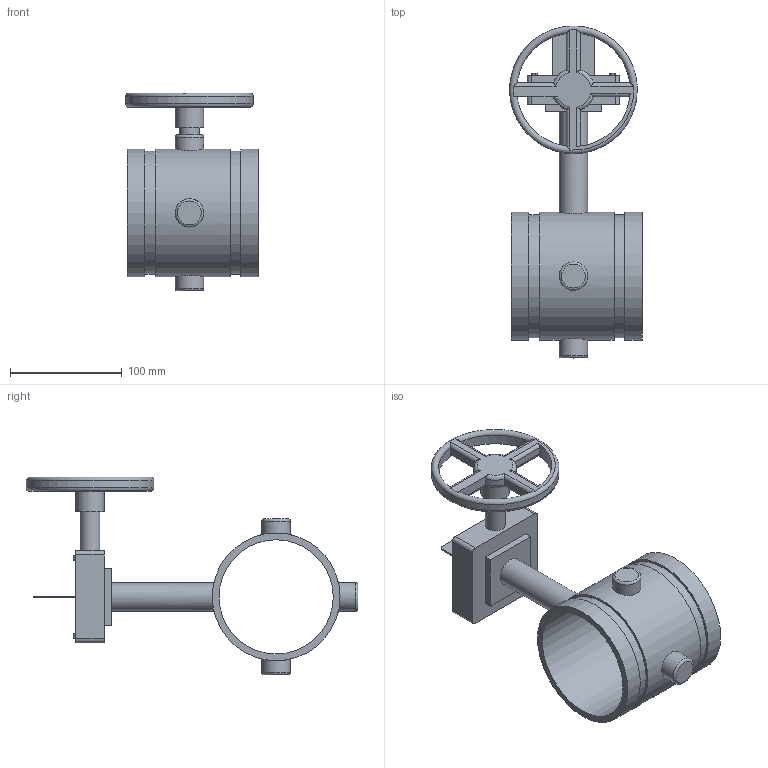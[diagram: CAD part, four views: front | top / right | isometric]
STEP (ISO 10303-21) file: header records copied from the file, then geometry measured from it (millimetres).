
FILE_DESCRIPTION(/* description */ ('VIC FIRELOCK BUTTERFLY VALVE SERIES 707-C W/ WEATHERPROOF ACTUATOR FOR 300 PSI','CAx-IF Rec.Pracs.---Representation and Presentation of Product Manufacturing Information (PMI)---4.0---2014-10-13'),/* implementation_level */ '2;1');
FILE_NAME(/* name */ 'C:\Users\Vjadhav\AppData\Roaming\Autodesk\ApplicationPlugins\Back Up\Victaulic_FP-FireLock_Valve Butterfly_Series 707C (OGS)-Closed\Victaulic_FP-FireLock_Valve Butterfly_Series 707C (OGS)-Closed_4 (100).stp',/* time_stamp */ '2020-07-20T15:14:54+06:00',/* author */ ('kkamble'),/* organization */ ('Victaulic'),/* preprocessor_version */ 'ST-DEVELOPER v17.2',/* originating_system */ 'Autodesk Inventor 2019',/* authorisation */ '');
FILE_SCHEMA (('AP242_MANAGED_MODEL_BASED_3D_ENGINEERING_MIM_LF { 1 0 10303 442 1 1 4 }'));
Length unit declared in the file: inch
Products named in the file (1): 707C-04.0
Bounding box: 118.87 x 296.93 x 177.04 mm (x, y, z)
Volume: 562206.9 mm3; surface area: 145402.2 mm2
Topology: 1 solids, 1 shells, 119 faces, 311 edges, 208 vertices
Faces by surface type: plane 66, cylinder 40, torus 13
Full cylindrical faces by diameter (mm): 17.78 x1, 25.4 x5, 102.26 x1, 110.084 x2, 114.3 x4
Entity records: 4402 total; most frequent: CARTESIAN_POINT 1160, DIRECTION 629, ORIENTED_EDGE 622, EDGE_CURVE 311, AXIS2_PLACEMENT_3D 225, VERTEX_POINT 208, LINE 179, VECTOR 179
